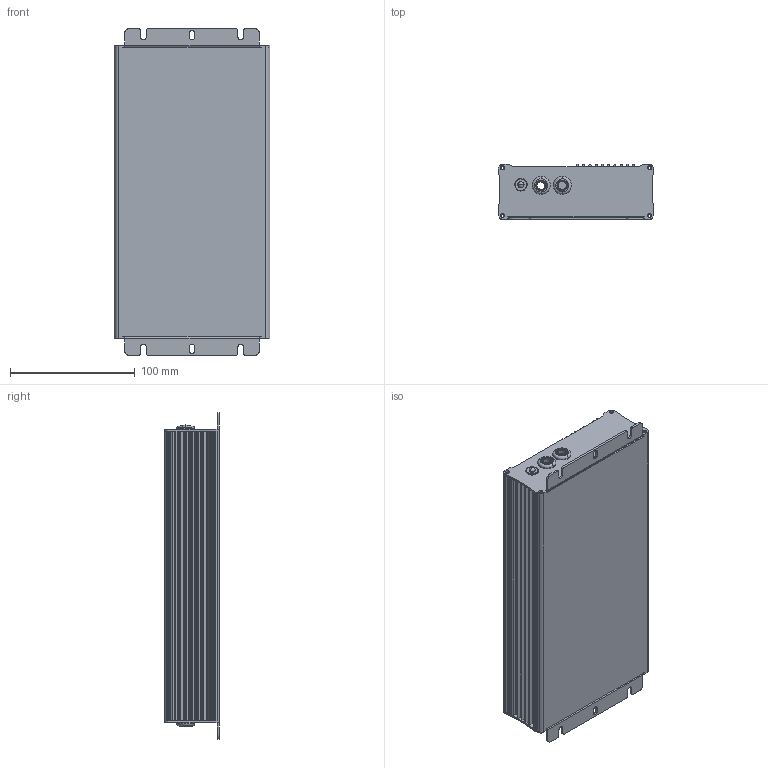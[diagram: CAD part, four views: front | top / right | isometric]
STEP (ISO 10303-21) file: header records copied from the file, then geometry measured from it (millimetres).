
FILE_DESCRIPTION(('Creo Elements/Direct Modeling STEP Export'),'2;1');
FILE_NAME('HEP-480B.stp','2017-05-09T10:30:56',(''),(''),'PTC Creo Elements/Direct Modeling STEP processor for AP214 (Solid Model)','PTC Creo Elements/Direct Modeling 19.0 09-May-2014 (C) Parametric Technology GmbH','');
FILE_SCHEMA(('AUTOMOTIVE_DESIGN { 1 0 10303 214 1 1 1 1 }'));
Length unit declared in the file: millimetre
Products named in the file (9): HLG-480H-ATYPE-193980.PRT.1; HLG-480H-ATYPE-193980.PRT; HLG-480H-ATYPE-194310.ASM; TLED-05_w_p____; LED2PIN__; RD1311028___X1; RD1311028ýíÎX1.STEP; TLED-05¿wÙpÙæÏÿ.STEP; HEP-480B
Assembly tree (8 placements, depth 5):
  HEP-480B
    TLED-05¿wÙpÙæÏÿ.STEP
      RD1311028ýíÎX1.STEP
        RD1311028___X1
          LED2PIN__
      TLED-05_w_p____
    HLG-480H-ATYPE-194310.ASM
      HLG-480H-ATYPE-193980.PRT
      HLG-480H-ATYPE-193980.PRT.1
Bounding box: 125.02 x 43.8 x 262 mm (x, y, z)
Volume: 227069.4 mm3; surface area: 213442.4 mm2
Topology: 4 solids, 6 shells, 704 faces, 1918 edges, 1253 vertices
Faces by surface type: plane 334, cylinder 280, cone 62, torus 26, sphere 2
Entity records: 28129 total; most frequent: CARTESIAN_POINT 4290, DIRECTION 3990, ORIENTED_EDGE 3832, EDGE_CURVE 1916, AXIS2_PLACEMENT_3D 1494, VERTEX_POINT 1253, VECTOR 1002, LINE 1002
